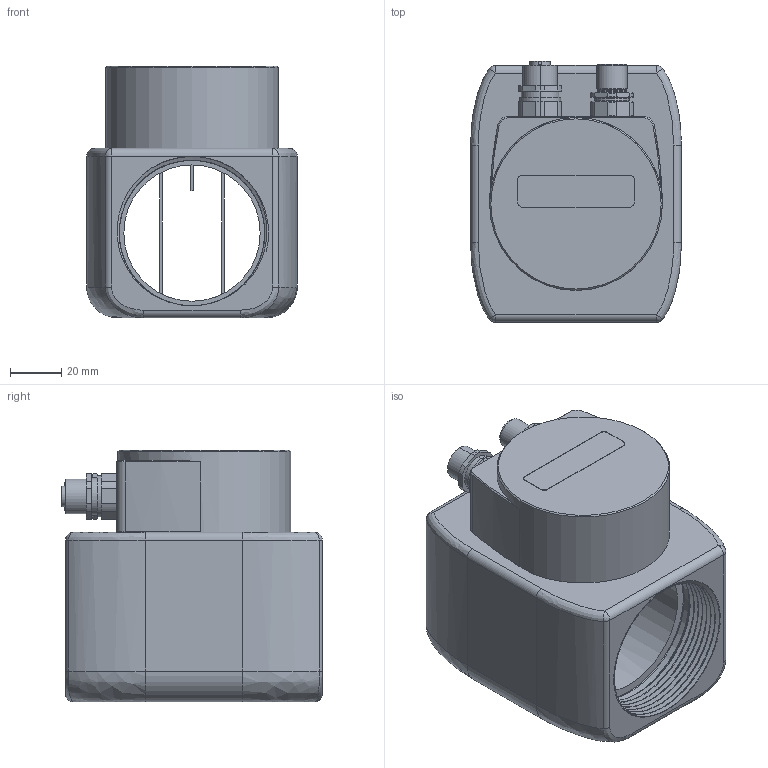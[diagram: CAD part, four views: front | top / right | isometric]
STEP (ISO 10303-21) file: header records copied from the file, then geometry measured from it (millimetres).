
FILE_DESCRIPTION(/* description */ (''),/* implementation_level */ '2;1');
FILE_NAME(/* name */ 'Inline_2_Zoll_neu.stp',/* time_stamp */ '2018-11-29T08:16:15+01:00',/* author */ (''),/* organization */ (''),/* preprocessor_version */ 'ST-DEVELOPER v16',/* originating_system */ 'SIEMENS PLM Software NX 11.0',/* authorisation */ '');
FILE_SCHEMA (('AP203_CONFIGURATION_CONTROLLED_3D_DESIGN_OF_MECHANICAL_PARTS_AND_ASSEMBLIES_MIM_LF { 1 0 10303 403 2 1 2}'));
Length unit declared in the file: millimetre
Products named in the file (1): kien1F14143Cxy19
Bounding box: 82 x 101.5 x 98 mm (x, y, z)
Volume: 405123 mm3; surface area: 66738.2 mm2
Topology: 1 solids, 1 shells, 303 faces, 741 edges, 463 vertices
Faces by surface type: plane 105, cylinder 89, bspline 36, cone 36, revolution 23, extrusion 6, torus 4, sphere 4
Full cylindrical faces by diameter (mm): 1 x1, 53.1 x1, 60 x2, 67.3 x1
Entity records: 14254 total; most frequent: CARTESIAN_POINT 7208, DIRECTION 1476, ORIENTED_EDGE 1440, EDGE_CURVE 720, AXIS2_PLACEMENT_3D 579, VERTEX_POINT 459, EDGE_LOOP 349, CIRCLE 332
